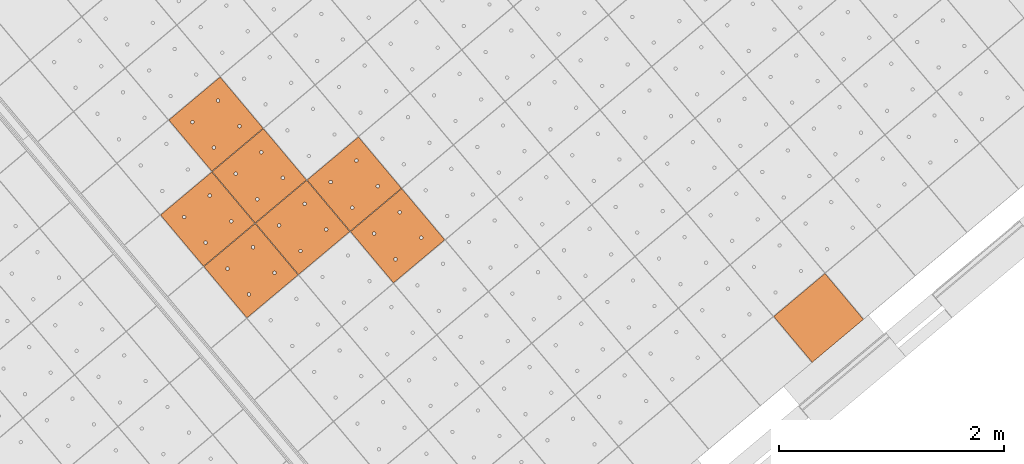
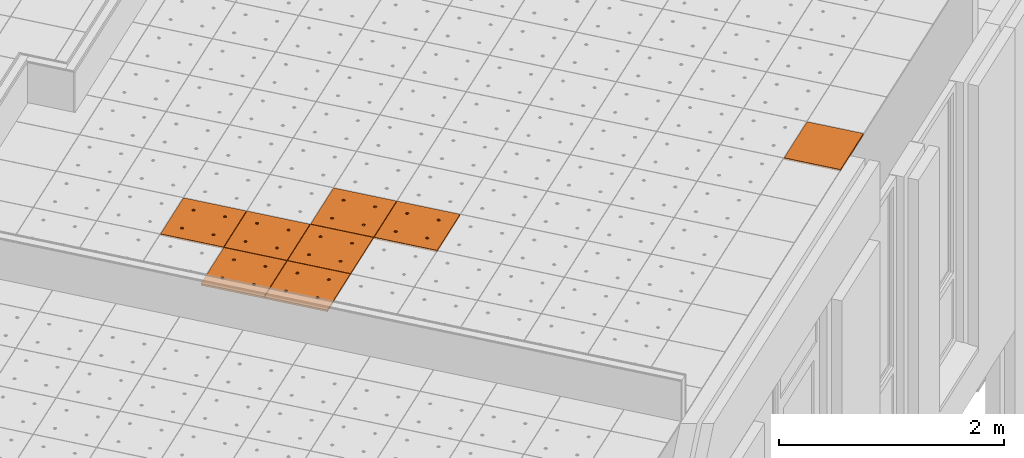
# One storey, part 182 of 338: 8 proxies, 1 element without a shape of its own.
"""IFC2X3 building model written with IfcOpenShell, lengths in millimetres."""

from ifc_helpers import new_model, entity, si_unit, converted_unit, derived_unit, money_unit, direction, frame, origin_with_axes, place, context, subcontext, project, spatial, faceted_brep, source, transform, mapped, material, type_object, type_shapes, element, aggregate, save


model = new_model("IFC2X3")

# Units and contexts
model_context = context("Model", 3, precision=0.01, world=origin_with_axes(), true_north=direction((0.0, 1.0)))
plan_context = context("Plan", 3, precision=0.01, world=origin_with_axes(), true_north=direction((0.0, 1.0)))
body_context = subcontext(model_context, "Body", "Model", "MODEL_VIEW")
ifc_project = project(units=[si_unit("LENGTHUNIT", "METRE", prefix="MILLI"), si_unit("AREAUNIT", "SQUARE_METRE"), si_unit("VOLUMEUNIT", "CUBIC_METRE"), converted_unit("PLANEANGLEUNIT", "DEGREE", entity("IfcPlaneAngleMeasure", 0.0174532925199), si_unit("PLANEANGLEUNIT", "RADIAN"), dimensions=[0, 0, 0, 0, 0, 0, 0]), money_unit("EUR"), converted_unit("TIMEUNIT", "Year", entity("IfcTimeMeasure", 31556926.0), si_unit("TIMEUNIT", "SECOND"), dimensions=[0, 0, 1, 0, 0, 0, 0]), si_unit("MASSUNIT", "GRAM", prefix="KILO"), si_unit("THERMODYNAMICTEMPERATUREUNIT", "DEGREE_CELSIUS"), si_unit("LUMINOUSINTENSITYUNIT", "LUMEN"), si_unit("ENERGYUNIT", "JOULE", prefix="MEGA"), derived_unit("THERMALCONDUCTANCEUNIT", [(si_unit("POWERUNIT", "WATT"), 1), (si_unit("LENGTHUNIT", "METRE"), -1), (si_unit("THERMODYNAMICTEMPERATUREUNIT", "KELVIN"), -1)]), derived_unit("SPECIFICHEATCAPACITYUNIT", [(si_unit("ENERGYUNIT", "JOULE"), 1), (si_unit("MASSUNIT", "GRAM", prefix="KILO"), -1), (si_unit("THERMODYNAMICTEMPERATUREUNIT", "KELVIN"), -1)]), derived_unit("MASSDENSITYUNIT", [(si_unit("MASSUNIT", "GRAM", prefix="KILO"), 1), (si_unit("VOLUMEUNIT", "CUBIC_METRE"), -1)])], contexts=[model_context, plan_context])

# Site, building, storey
site_placement = place(None, origin_with_axes())
site = spatial("IfcSite", under=ifc_project, at=site_placement, Name="Fortuinstraat Woensdrecht", CompositionType="ELEMENT")
building_placement = place(site_placement, origin_with_axes())
building = spatial("IfcBuilding", under=site, at=building_placement, Name="IKC Fortuna", CompositionType="ELEMENT")
storey_placement = place(building_placement, origin_with_axes())
storey = spatial("IfcBuildingStorey", under=building, at=storey_placement, Name="00 begane grond", CompositionType="ELEMENT", Elevation=0.0)

# Covering, proxies
covering_type = type_object("IfcCoveringType", Name="Curtain Wall Type", PredefinedType="CEILING")
covering_placement = place(storey_placement, frame((19785.7448517, -11392.5753808, 4660.0), z_axis=(0.0, 0.0, 1.0), x_axis=(1.0, 0.0, 0.0)))
covering = element("IfcCovering", 1, at=covering_placement, inside=storey, type_object=covering_type, Name="45_Plafondafwerking_P01", PredefinedType="CEILING")
ifc_material = material(Name="Gipsplaat")
building_element_proxy_type_1 = type_object("IfcBuildingElementProxyType", Name="Main Panel 600 x 600 x 20", PredefinedType="NOTDEFINED")
shared_shape_1 = source(origin_with_axes(), body_context, "Body", "Brep", [
    faceted_brep([(2.49999999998, 2.49999999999, -10.0), (300.0, 2.49999999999, -10.0), (300.0, 2.49999999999, 10.0), (2.49999999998, 2.49999999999, 10.0), (2.49999999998, 300.0, -10.0), (2.49999999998, 597.5, -10.0), (300.0, 597.5, -10.0), (597.5, 597.5, -10.0), (597.5, 300.0, -10.0), (597.5, 2.49999999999, -10.0), (166.25, 450.06232995, -10.0), (165.79423259, 452.64711538, -10.0), (164.896546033, 455.11348892, -10.0), (163.58421608, 457.38651108, -10.0), (161.897117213, 459.39711721, -10.0), (159.886511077, 461.08421608, -10.0), (157.613488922, 462.39654603, -10.0), (155.147115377, 463.29423259, -10.0), (152.562329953, 463.75, -10.0), (149.937670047, 463.75, -10.0), (147.352884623, 463.29423259, -10.0), (144.886511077, 462.39654603, -10.0), (142.613488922, 461.08421608, -10.0), (140.602882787, 459.39711721, -10.0), (138.91578392, 457.38651108, -10.0), (137.603453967, 455.11348892, -10.0), (136.705767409, 452.64711538, -10.0), (136.25, 450.06232995, -10.0), (136.25, 448.75, -10.0), (136.25, 447.43767005, -10.0), (136.705767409, 444.85288462, -10.0), (137.603453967, 442.38651108, -10.0), (138.91578392, 440.11348892, -10.0), (140.602882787, 438.10288279, -10.0), (142.613488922, 436.41578392, -10.0), (144.886511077, 435.10345397, -10.0), (147.352884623, 434.20576741, -10.0), (149.937670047, 433.75, -10.0), (152.562329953, 433.75, -10.0), (155.147115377, 434.20576741, -10.0), (157.613488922, 435.10345397, -10.0), (159.886511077, 436.41578392, -10.0), (161.897117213, 438.10288279, -10.0), (163.58421608, 440.11348892, -10.0), (164.896546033, 442.38651108, -10.0), (165.79423259, 444.85288462, -10.0), (166.25, 447.43767005, -10.0), (463.75, 450.06232995, -10.0), (463.29423259, 452.64711538, -10.0), (462.396546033, 455.11348892, -10.0), (461.08421608, 457.38651108, -10.0), (459.397117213, 459.39711721, -10.0), (457.386511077, 461.08421608, -10.0), (455.113488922, 462.39654603, -10.0), (452.647115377, 463.29423259, -10.0), (450.062329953, 463.75, -10.0), (447.437670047, 463.75, -10.0), (444.852884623, 463.29423259, -10.0), (442.386511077, 462.39654603, -10.0), (440.113488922, 461.08421608, -10.0), (438.102882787, 459.39711721, -10.0), (436.41578392, 457.38651108, -10.0), (435.103453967, 455.11348892, -10.0), (434.205767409, 452.64711538, -10.0), (433.75, 450.06232995, -10.0), (433.75, 448.75, -10.0), (433.75, 447.43767005, -10.0), (434.205767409, 444.85288462, -10.0), (435.103453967, 442.38651108, -10.0), (436.41578392, 440.11348892, -10.0), (438.102882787, 438.10288279, -10.0), (440.113488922, 436.41578392, -10.0), (442.386511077, 435.10345397, -10.0), (444.852884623, 434.20576741, -10.0), (447.437670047, 433.75, -10.0), (450.062329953, 433.75, -10.0), (452.647115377, 434.20576741, -10.0), (455.113488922, 435.10345397, -10.0), (457.386511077, 436.41578392, -10.0), (459.397117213, 438.10288279, -10.0), (461.08421608, 440.11348892, -10.0), (462.396546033, 442.38651108, -10.0), (463.29423259, 444.85288462, -10.0), (463.75, 447.43767005, -10.0), (463.75, 152.56232995, -10.0), (463.29423259, 155.14711538, -10.0), (462.396546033, 157.61348892, -10.0), (461.08421608, 159.88651108, -10.0), (459.397117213, 161.89711721, -10.0), (457.386511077, 163.58421608, -10.0), (455.113488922, 164.89654603, -10.0), (452.647115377, 165.79423259, -10.0), (450.062329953, 166.25, -10.0), (447.437670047, 166.25, -10.0), (444.852884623, 165.79423259, -10.0), (442.386511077, 164.89654603, -10.0), (440.113488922, 163.58421608, -10.0), (438.102882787, 161.89711721, -10.0), (436.41578392, 159.88651108, -10.0), (435.103453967, 157.61348892, -10.0), (434.205767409, 155.14711538, -10.0), (433.75, 152.56232995, -10.0), (433.75, 151.25, -10.0), (433.75, 149.93767005, -10.0), (434.205767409, 147.35288462, -10.0), (435.103453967, 144.88651108, -10.0), (436.41578392, 142.61348892, -10.0), (438.102882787, 140.60288279, -10.0), (440.113488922, 138.91578392, -10.0), (442.386511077, 137.60345397, -10.0), (444.852884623, 136.70576741, -10.0), (447.437670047, 136.25, -10.0), (450.062329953, 136.25, -10.0), (452.647115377, 136.70576741, -10.0), (455.113488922, 137.60345397, -10.0), (457.386511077, 138.91578392, -10.0), (459.397117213, 140.60288279, -10.0), (461.08421608, 142.61348892, -10.0), (462.396546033, 144.88651108, -10.0), (463.29423259, 147.35288462, -10.0), (463.75, 149.93767005, -10.0), (166.25, 152.56232995, -10.0), (165.79423259, 155.14711538, -10.0), (164.896546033, 157.61348892, -10.0), (163.58421608, 159.88651108, -10.0), (161.897117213, 161.89711721, -10.0), (159.886511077, 163.58421608, -10.0), (157.613488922, 164.89654603, -10.0), (155.147115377, 165.79423259, -10.0), (152.562329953, 166.25, -10.0), (149.937670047, 166.25, -10.0), (147.352884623, 165.79423259, -10.0), (144.886511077, 164.89654603, -10.0), (142.613488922, 163.58421608, -10.0), (140.602882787, 161.89711721, -10.0), (138.91578392, 159.88651108, -10.0), (137.603453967, 157.61348892, -10.0), (136.705767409, 155.14711538, -10.0), (136.25, 152.56232995, -10.0), (136.25, 151.25, -10.0), (136.25, 149.93767005, -10.0), (136.705767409, 147.35288462, -10.0), (137.603453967, 144.88651108, -10.0), (138.91578392, 142.61348892, -10.0), (140.602882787, 140.60288279, -10.0), (142.613488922, 138.91578392, -10.0), (144.886511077, 137.60345397, -10.0), (147.352884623, 136.70576741, -10.0), (149.937670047, 136.25, -10.0), (152.562329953, 136.25, -10.0), (155.147115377, 136.70576741, -10.0), (157.613488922, 137.60345397, -10.0), (159.886511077, 138.91578392, -10.0), (161.897117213, 140.60288279, -10.0), (163.58421608, 142.61348892, -10.0), (164.896546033, 144.88651108, -10.0), (165.79423259, 147.35288462, -10.0), (166.25, 149.93767005, -10.0), (597.5, 2.49999999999, 10.0), (597.5, 300.0, 10.0), (597.5, 597.5, 10.0), (300.0, 597.5, 10.0), (2.49999999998, 597.5, 10.0), (2.49999999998, 300.0, 10.0), (166.25, 450.06232995, 10.0), (166.25, 447.43767005, 10.0), (165.79423259, 444.85288462, 10.0), (164.896546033, 442.38651108, 10.0), (163.58421608, 440.11348892, 10.0), (161.897117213, 438.10288279, 10.0), (159.886511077, 436.41578392, 10.0), (157.613488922, 435.10345397, 10.0), (155.147115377, 434.20576741, 10.0), (152.562329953, 433.75, 10.0), (149.937670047, 433.75, 10.0), (147.352884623, 434.20576741, 10.0), (144.886511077, 435.10345397, 10.0), (142.613488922, 436.41578392, 10.0), (140.602882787, 438.10288279, 10.0), (138.91578392, 440.11348892, 10.0), (137.603453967, 442.38651108, 10.0), (136.705767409, 444.85288462, 10.0), (136.25, 447.43767005, 10.0), (136.25, 448.75, 10.0), (136.25, 450.06232995, 10.0), (136.705767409, 452.64711538, 10.0), (137.603453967, 455.11348892, 10.0), (138.91578392, 457.38651108, 10.0), (140.602882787, 459.39711721, 10.0), (142.613488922, 461.08421608, 10.0), (144.886511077, 462.39654603, 10.0), (147.352884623, 463.29423259, 10.0), (149.937670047, 463.75, 10.0), (152.562329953, 463.75, 10.0), (155.147115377, 463.29423259, 10.0), (157.613488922, 462.39654603, 10.0), (159.886511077, 461.08421608, 10.0), (161.897117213, 459.39711721, 10.0), (163.58421608, 457.38651108, 10.0), (164.896546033, 455.11348892, 10.0), (165.79423259, 452.64711538, 10.0), (463.75, 450.06232995, 10.0), (463.75, 447.43767005, 10.0), (463.29423259, 444.85288462, 10.0), (462.396546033, 442.38651108, 10.0), (461.08421608, 440.11348892, 10.0), (459.397117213, 438.10288279, 10.0), (457.386511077, 436.41578392, 10.0), (455.113488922, 435.10345397, 10.0), (452.647115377, 434.20576741, 10.0), (450.062329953, 433.75, 10.0), (447.437670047, 433.75, 10.0), (444.852884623, 434.20576741, 10.0), (442.386511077, 435.10345397, 10.0), (440.113488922, 436.41578392, 10.0), (438.102882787, 438.10288279, 10.0), (436.41578392, 440.11348892, 10.0), (435.103453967, 442.38651108, 10.0), (434.205767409, 444.85288462, 10.0), (433.75, 447.43767005, 10.0), (433.75, 448.75, 10.0), (433.75, 450.06232995, 10.0), (434.205767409, 452.64711538, 10.0), (435.103453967, 455.11348892, 10.0), (436.41578392, 457.38651108, 10.0), (438.102882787, 459.39711721, 10.0), (440.113488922, 461.08421608, 10.0), (442.386511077, 462.39654603, 10.0), (444.852884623, 463.29423259, 10.0), (447.437670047, 463.75, 10.0), (450.062329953, 463.75, 10.0), (452.647115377, 463.29423259, 10.0), (455.113488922, 462.39654603, 10.0), (457.386511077, 461.08421608, 10.0), (459.397117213, 459.39711721, 10.0), (461.08421608, 457.38651108, 10.0), (462.396546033, 455.11348892, 10.0), (463.29423259, 452.64711538, 10.0), (463.75, 152.56232995, 10.0), (463.75, 149.93767005, 10.0), (463.29423259, 147.35288462, 10.0), (462.396546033, 144.88651108, 10.0), (461.08421608, 142.61348892, 10.0), (459.397117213, 140.60288279, 10.0), (457.386511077, 138.91578392, 10.0), (455.113488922, 137.60345397, 10.0), (452.647115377, 136.70576741, 10.0), (450.062329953, 136.25, 10.0), (447.437670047, 136.25, 10.0), (444.852884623, 136.70576741, 10.0), (442.386511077, 137.60345397, 10.0), (440.113488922, 138.91578392, 10.0), (438.102882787, 140.60288279, 10.0), (436.41578392, 142.61348892, 10.0), (435.103453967, 144.88651108, 10.0), (434.205767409, 147.35288462, 10.0), (433.75, 149.93767005, 10.0), (433.75, 151.25, 10.0), (433.75, 152.56232995, 10.0), (434.205767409, 155.14711538, 10.0), (435.103453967, 157.61348892, 10.0), (436.41578392, 159.88651108, 10.0), (438.102882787, 161.89711721, 10.0), (440.113488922, 163.58421608, 10.0), (442.386511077, 164.89654603, 10.0), (444.852884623, 165.79423259, 10.0), (447.437670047, 166.25, 10.0), (450.062329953, 166.25, 10.0), (452.647115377, 165.79423259, 10.0), (455.113488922, 164.89654603, 10.0), (457.386511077, 163.58421608, 10.0), (459.397117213, 161.89711721, 10.0), (461.08421608, 159.88651108, 10.0), (462.396546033, 157.61348892, 10.0), (463.29423259, 155.14711538, 10.0), (166.25, 152.56232995, 10.0), (166.25, 149.93767005, 10.0), (165.79423259, 147.35288462, 10.0), (164.896546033, 144.88651108, 10.0), (163.58421608, 142.61348892, 10.0), (161.897117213, 140.60288279, 10.0), (159.886511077, 138.91578392, 10.0), (157.613488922, 137.60345397, 10.0), (155.147115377, 136.70576741, 10.0), (152.562329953, 136.25, 10.0), (149.937670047, 136.25, 10.0), (147.352884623, 136.70576741, 10.0), (144.886511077, 137.60345397, 10.0), (142.613488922, 138.91578392, 10.0), (140.602882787, 140.60288279, 10.0), (138.91578392, 142.61348892, 10.0), (137.603453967, 144.88651108, 10.0), (136.705767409, 147.35288462, 10.0), (136.25, 149.93767005, 10.0), (136.25, 151.25, 10.0), (136.25, 152.56232995, 10.0), (136.705767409, 155.14711538, 10.0), (137.603453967, 157.61348892, 10.0), (138.91578392, 159.88651108, 10.0), (140.602882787, 161.89711721, 10.0), (142.613488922, 163.58421608, 10.0), (144.886511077, 164.89654603, 10.0), (147.352884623, 165.79423259, 10.0), (149.937670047, 166.25, 10.0), (152.562329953, 166.25, 10.0), (155.147115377, 165.79423259, 10.0), (157.613488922, 164.89654603, 10.0), (159.886511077, 163.58421608, 10.0), (161.897117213, 161.89711721, 10.0), (163.58421608, 159.88651108, 10.0), (164.896546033, 157.61348892, 10.0), (165.79423259, 155.14711538, 10.0)], [[[0, 1, 2, 3]], [[0, 4, 5, 6, 7, 8, 9, 1], [10, 11, 12, 13, 14, 15, 16, 17, 18, 19, 20, 21, 22, 23, 24, 25, 26, 27, 28, 29, 30, 31, 32, 33, 34, 35, 36, 37, 38, 39, 40, 41, 42, 43, 44, 45, 46], [47, 48, 49, 50, 51, 52, 53, 54, 55, 56, 57, 58, 59, 60, 61, 62, 63, 64, 65, 66, 67, 68, 69, 70, 71, 72, 73, 74, 75, 76, 77, 78, 79, 80, 81, 82, 83], [84, 85, 86, 87, 88, 89, 90, 91, 92, 93, 94, 95, 96, 97, 98, 99, 100, 101, 102, 103, 104, 105, 106, 107, 108, 109, 110, 111, 112, 113, 114, 115, 116, 117, 118, 119, 120], [121, 122, 123, 124, 125, 126, 127, 128, 129, 130, 131, 132, 133, 134, 135, 136, 137, 138, 139, 140, 141, 142, 143, 144, 145, 146, 147, 148, 149, 150, 151, 152, 153, 154, 155, 156, 157]], [[1, 9, 158, 2]], [[3, 2, 158, 159, 160, 161, 162, 163], [164, 165, 166, 167, 168, 169, 170, 171, 172, 173, 174, 175, 176, 177, 178, 179, 180, 181, 182, 183, 184, 185, 186, 187, 188, 189, 190, 191, 192, 193, 194, 195, 196, 197, 198, 199, 200], [201, 202, 203, 204, 205, 206, 207, 208, 209, 210, 211, 212, 213, 214, 215, 216, 217, 218, 219, 220, 221, 222, 223, 224, 225, 226, 227, 228, 229, 230, 231, 232, 233, 234, 235, 236, 237], [238, 239, 240, 241, 242, 243, 244, 245, 246, 247, 248, 249, 250, 251, 252, 253, 254, 255, 256, 257, 258, 259, 260, 261, 262, 263, 264, 265, 266, 267, 268, 269, 270, 271, 272, 273, 274], [275, 276, 277, 278, 279, 280, 281, 282, 283, 284, 285, 286, 287, 288, 289, 290, 291, 292, 293, 294, 295, 296, 297, 298, 299, 300, 301, 302, 303, 304, 305, 306, 307, 308, 309, 310, 311]], [[4, 0, 3, 163]], [[5, 4, 163, 162]], [[6, 5, 162, 161]], [[7, 6, 161, 160]], [[8, 7, 160, 159]], [[9, 8, 159, 158]], [[11, 10, 164, 200]], [[12, 11, 200, 199]], [[13, 12, 199, 198]], [[14, 13, 198, 197]], [[15, 14, 197, 196]], [[16, 15, 196, 195]], [[17, 16, 195, 194]], [[18, 17, 194, 193]], [[19, 18, 193, 192]], [[20, 19, 192, 191]], [[21, 20, 191, 190]], [[22, 21, 190, 189]], [[23, 22, 189, 188]], [[24, 23, 188, 187]], [[25, 24, 187, 186]], [[26, 25, 186, 185]], [[27, 26, 185, 184]], [[28, 27, 184, 183]], [[29, 28, 183, 182]], [[30, 29, 182, 181]], [[31, 30, 181, 180]], [[32, 31, 180, 179]], [[33, 32, 179, 178]], [[34, 33, 178, 177]], [[35, 34, 177, 176]], [[36, 35, 176, 175]], [[37, 36, 175, 174]], [[38, 37, 174, 173]], [[39, 38, 173, 172]], [[40, 39, 172, 171]], [[41, 40, 171, 170]], [[42, 41, 170, 169]], [[43, 42, 169, 168]], [[44, 43, 168, 167]], [[45, 44, 167, 166]], [[46, 45, 166, 165]], [[10, 46, 165, 164]], [[48, 47, 201, 237]], [[49, 48, 237, 236]], [[50, 49, 236, 235]], [[51, 50, 235, 234]], [[52, 51, 234, 233]], [[53, 52, 233, 232]], [[54, 53, 232, 231]], [[55, 54, 231, 230]], [[56, 55, 230, 229]], [[57, 56, 229, 228]], [[58, 57, 228, 227]], [[59, 58, 227, 226]], [[60, 59, 226, 225]], [[61, 60, 225, 224]], [[62, 61, 224, 223]], [[63, 62, 223, 222]], [[64, 63, 222, 221]], [[65, 64, 221, 220]], [[66, 65, 220, 219]], [[67, 66, 219, 218]], [[68, 67, 218, 217]], [[69, 68, 217, 216]], [[70, 69, 216, 215]], [[71, 70, 215, 214]], [[72, 71, 214, 213]], [[73, 72, 213, 212]], [[74, 73, 212, 211]], [[75, 74, 211, 210]], [[76, 75, 210, 209]], [[77, 76, 209, 208]], [[78, 77, 208, 207]], [[79, 78, 207, 206]], [[80, 79, 206, 205]], [[81, 80, 205, 204]], [[82, 81, 204, 203]], [[83, 82, 203, 202]], [[47, 83, 202, 201]], [[85, 84, 238, 274]], [[86, 85, 274, 273]], [[87, 86, 273, 272]], [[88, 87, 272, 271]], [[89, 88, 271, 270]], [[90, 89, 270, 269]], [[91, 90, 269, 268]], [[92, 91, 268, 267]], [[93, 92, 267, 266]], [[94, 93, 266, 265]], [[95, 94, 265, 264]], [[96, 95, 264, 263]], [[97, 96, 263, 262]], [[98, 97, 262, 261]], [[99, 98, 261, 260]], [[100, 99, 260, 259]], [[101, 100, 259, 258]], [[102, 101, 258, 257]], [[103, 102, 257, 256]], [[104, 103, 256, 255]], [[105, 104, 255, 254]], [[106, 105, 254, 253]], [[107, 106, 253, 252]], [[108, 107, 252, 251]], [[109, 108, 251, 250]], [[110, 109, 250, 249]], [[111, 110, 249, 248]], [[112, 111, 248, 247]], [[113, 112, 247, 246]], [[114, 113, 246, 245]], [[115, 114, 245, 244]], [[116, 115, 244, 243]], [[117, 116, 243, 242]], [[118, 117, 242, 241]], [[119, 118, 241, 240]], [[120, 119, 240, 239]], [[84, 120, 239, 238]], [[122, 121, 275, 311]], [[123, 122, 311, 310]], [[124, 123, 310, 309]], [[125, 124, 309, 308]], [[126, 125, 308, 307]], [[127, 126, 307, 306]], [[128, 127, 306, 305]], [[129, 128, 305, 304]], [[130, 129, 304, 303]], [[131, 130, 303, 302]], [[132, 131, 302, 301]], [[133, 132, 301, 300]], [[134, 133, 300, 299]], [[135, 134, 299, 298]], [[136, 135, 298, 297]], [[137, 136, 297, 296]], [[138, 137, 296, 295]], [[139, 138, 295, 294]], [[140, 139, 294, 293]], [[141, 140, 293, 292]], [[142, 141, 292, 291]], [[143, 142, 291, 290]], [[144, 143, 290, 289]], [[145, 144, 289, 288]], [[146, 145, 288, 287]], [[147, 146, 287, 286]], [[148, 147, 286, 285]], [[149, 148, 285, 284]], [[150, 149, 284, 283]], [[151, 150, 283, 282]], [[152, 151, 282, 281]], [[153, 152, 281, 280]], [[154, 153, 280, 279]], [[155, 154, 279, 278]], [[156, 155, 278, 277]], [[157, 156, 277, 276]], [[121, 157, 276, 275]]]),
])
type_shapes(building_element_proxy_type_1, [shared_shape_1])
proxy_1_placement = place(covering_placement, frame((-2215.94412611, 4365.76542759, 1.99840144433e-10), z_axis=(0.0, 0.0, 1.0), x_axis=(1.0, 0.0, 0.0)))
proxy_1 = element("IfcBuildingElementProxy", 2, at=proxy_1_placement, type_object=building_element_proxy_type_1, material=ifc_material, Name="__600x611 Rockfon Krios", context=body_context, shape_type="MappedRepresentation", body=[
    mapped(shared_shape_1, transform((36.9769427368, 422.649625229, 0.0), x_axis=(-0.766044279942, -0.642787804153, 0.0), y_axis=(0.642787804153, -0.766044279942, 0.0), z_axis=(0.0, 0.0, 1.0))),
])
proxy_2_placement = place(covering_placement, frame((-599.299510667, 3372.55840618, 1.80300219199e-10), z_axis=(0.0, 0.0, 1.0), x_axis=(1.0, 0.0, 0.0)))
proxy_2 = element("IfcBuildingElementProxy", 3, at=proxy_2_placement, type_object=building_element_proxy_type_1, material=ifc_material, Name="__600x634 Rockfon Krios", context=body_context, shape_type="MappedRepresentation", body=[
    mapped(shared_shape_1, transform((36.9769427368, 422.649625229, 0.0), x_axis=(-0.766044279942, -0.642787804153, 0.0), y_axis=(0.642787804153, -0.766044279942, 0.0), z_axis=(0.0, 0.0, 1.0))),
])
proxy_3_placement = place(covering_placement, frame((-984.972193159, 3832.18497415, 1.80300219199e-10), z_axis=(0.0, 0.0, 1.0), x_axis=(1.0, 0.0, 0.0)))
proxy_3 = element("IfcBuildingElementProxy", 4, at=proxy_3_placement, type_object=building_element_proxy_type_1, material=ifc_material, Name="__600x654 Rockfon Krios", context=body_context, shape_type="MappedRepresentation", body=[
    mapped(shared_shape_1, transform((36.9769427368, 422.649625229, 0.0), x_axis=(-0.766044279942, -0.642787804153, 0.0), y_axis=(0.642787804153, -0.766044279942, 0.0), z_axis=(0.0, 0.0, 1.0))),
])
proxy_4_placement = place(covering_placement, frame((-2289.89801158, 3520.46617713, 2.20268248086e-10), z_axis=(0.0, 0.0, 1.0), x_axis=(1.0, 0.0, 0.0)))
proxy_4 = element("IfcBuildingElementProxy", 5, at=proxy_4_placement, type_object=building_element_proxy_type_1, material=ifc_material, Name="__600x674 Rockfon Krios", context=body_context, shape_type="MappedRepresentation", body=[
    mapped(shared_shape_1, transform((36.9769427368, 422.649625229, 0.0), x_axis=(-0.766044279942, -0.642787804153, 0.0), y_axis=(0.642787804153, -0.766044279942, 0.0), z_axis=(0.0, 0.0, 1.0))),
])
proxy_5_placement = place(covering_placement, frame((-1904.22532909, 3060.83960916, 2.20268248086e-10), z_axis=(0.0, 0.0, 1.0), x_axis=(1.0, 0.0, 0.0)))
proxy_5 = element("IfcBuildingElementProxy", 6, at=proxy_5_placement, type_object=building_element_proxy_type_1, material=ifc_material, Name="__600x680 Rockfon Krios", context=body_context, shape_type="MappedRepresentation", body=[
    mapped(shared_shape_1, transform((36.9769427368, 422.649625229, 0.0), x_axis=(-0.766044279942, -0.642787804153, 0.0), y_axis=(0.642787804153, -0.766044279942, 0.0), z_axis=(0.0, 0.0, 1.0))),
])
proxy_6_placement = place(covering_placement, frame((-1444.59876112, 3446.51229166, 1.99840144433e-10), z_axis=(0.0, 0.0, 1.0), x_axis=(1.0, 0.0, 0.0)))
proxy_6 = element("IfcBuildingElementProxy", 7, at=proxy_6_placement, type_object=building_element_proxy_type_1, material=ifc_material, Name="__600x685 Rockfon Krios", context=body_context, shape_type="MappedRepresentation", body=[
    mapped(shared_shape_1, transform((36.9769427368, 422.649625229, 0.0), x_axis=(-0.766044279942, -0.642787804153, 0.0), y_axis=(0.642787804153, -0.766044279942, 0.0), z_axis=(0.0, 0.0, 1.0))),
])
proxy_7_placement = place(covering_placement, frame((-1830.27144362, 3906.13885962, 1.99840144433e-10), z_axis=(0.0, 0.0, 1.0), x_axis=(1.0, 0.0, 0.0)))
proxy_7 = element("IfcBuildingElementProxy", 8, at=proxy_7_placement, type_object=building_element_proxy_type_1, material=ifc_material, Name="__600x686 Rockfon Krios", context=body_context, shape_type="MappedRepresentation", body=[
    mapped(shared_shape_1, transform((36.9769427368, 422.649625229, 0.0), x_axis=(-0.766044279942, -0.642787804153, 0.0), y_axis=(0.642787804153, -0.766044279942, 0.0), z_axis=(0.0, 0.0, 1.0))),
])
building_element_proxy_type_2 = type_object("IfcBuildingElementProxyType", Name="600 x 538 x 20", PredefinedType="NOTDEFINED")
shared_shape_2 = source(origin_with_axes(), body_context, "Body", "Brep", [
    faceted_brep([(2.49999356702, 2.5000047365, -10.0), (597.499998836, 2.49999810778, -10.0), (597.499998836, 2.49999810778, 10.0), (2.49999356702, 2.5000047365, 10.0), (2.49999991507, 535.002599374, -10.0), (597.500005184, 535.002592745, -10.0), (597.500005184, 535.002592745, 10.0), (2.49999991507, 535.002599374, 10.0)], [[[0, 1, 2, 3]], [[0, 4, 5, 1]], [[1, 5, 6, 2]], [[3, 2, 6, 7]], [[4, 0, 3, 7]], [[5, 4, 7, 6]]]),
])
type_shapes(building_element_proxy_type_2, [shared_shape_2])
proxy_8_placement = place(covering_placement, frame((3147.48401922, 2641.05403069, 1.02140518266e-10), z_axis=(0.0, 0.0, 1.0), x_axis=(1.0, 0.0, 0.0)))
proxy_8 = element("IfcBuildingElementProxy", 9, at=proxy_8_placement, type_object=building_element_proxy_type_2, material=ifc_material, Name="__600x716 Rockfon Krios", context=body_context, shape_type="MappedRepresentation", body=[
    mapped(shared_shape_2, transform((57.0630971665, 398.711890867, 0.0), x_axis=(-0.766044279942, -0.642787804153, 0.0), y_axis=(0.642787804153, -0.766044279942, 0.0), z_axis=(0.0, 0.0, 1.0))),
])
aggregate(covering, [proxy_1, proxy_2, proxy_3, proxy_4, proxy_5, proxy_6, proxy_7, proxy_8])

save(model, "model.ifc")
